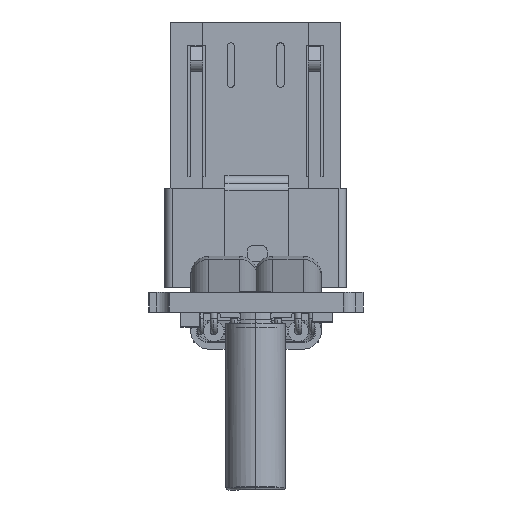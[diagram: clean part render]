
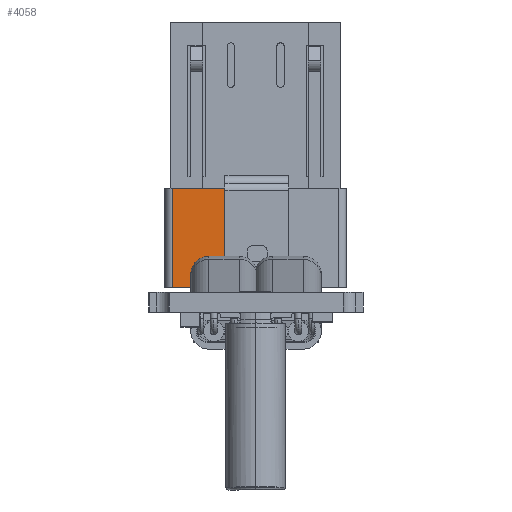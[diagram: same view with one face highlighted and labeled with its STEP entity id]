
A CAD part, front view. The second image highlights one B-rep face of the part: STEP entity #4058.
In plain terms, the highlighted planar face has unit normal (0, -1, 0) as drawn and (0, 1, 0) by its records, which use the part's own axes.
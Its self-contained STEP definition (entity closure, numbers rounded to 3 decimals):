
#2979 = VERTEX_POINT('',#2980);
#2980 = CARTESIAN_POINT('',(5.89,0.77,6.2
    ));
#2987 = EDGE_CURVE('',#2988,#2979,#2990,.T.);
#2988 = VERTEX_POINT('',#2989);
#2989 = CARTESIAN_POINT('',(3.776,0.77,6.2
    ));
#2990 = LINE('',#2991,#2992);
#2991 = CARTESIAN_POINT('',(-1.11,0.77,
    6.2));
#2992 = VECTOR('',#2993,1.);
#2993 = DIRECTION('',(1.,0.,0.));
#3180 = VERTEX_POINT('',#3181);
#3181 = CARTESIAN_POINT('',(5.89,0.77,2.2
    ));
#3188 = EDGE_CURVE('',#3189,#3180,#3191,.T.);
#3189 = VERTEX_POINT('',#3190);
#3190 = CARTESIAN_POINT('',(3.776,0.77,2.2
    ));
#3191 = LINE('',#3192,#3193);
#3192 = CARTESIAN_POINT('',(-1.11,0.77,
    2.2));
#3193 = VECTOR('',#3194,1.);
#3194 = DIRECTION('',(1.,0.,0.));
#3359 = EDGE_CURVE('',#2979,#3180,#3360,.T.);
#3360 = LINE('',#3361,#3362);
#3361 = CARTESIAN_POINT('',(5.89,0.77,2.2
    ));
#3362 = VECTOR('',#3363,1.);
#3363 = DIRECTION('',(0.,0.,-1.));
#3809 = EDGE_CURVE('',#2988,#3189,#3810,.T.);
#3810 = LINE('',#3811,#3812);
#3811 = CARTESIAN_POINT('',(3.776,0.77,6.2
    ));
#3812 = VECTOR('',#3813,1.);
#3813 = DIRECTION('',(0.,0.,-1.));
#4058 = ADVANCED_FACE('',(#4059),#4065,.F.);
#4059 = FACE_BOUND('',#4060,.T.);
#4060 = EDGE_LOOP('',(#4061,#4062,#4063,#4064));
#4061 = ORIENTED_EDGE('',*,*,#2987,.T.);
#4062 = ORIENTED_EDGE('',*,*,#3359,.T.);
#4063 = ORIENTED_EDGE('',*,*,#3188,.F.);
#4064 = ORIENTED_EDGE('',*,*,#3809,.F.);
#4065 = PLANE('',#4066);
#4066 = AXIS2_PLACEMENT_3D('',#4067,#4068,#4069);
#4067 = CARTESIAN_POINT('',(-1.11,0.77,
    2.2));
#4068 = DIRECTION('',(0.,-1.,0.));
#4069 = DIRECTION('',(1.,0.,0.));
